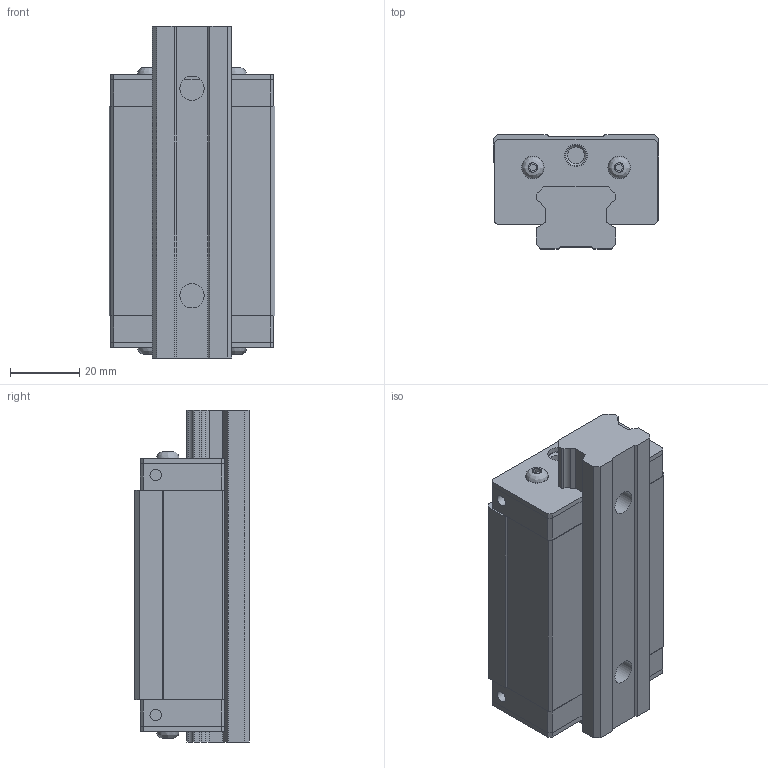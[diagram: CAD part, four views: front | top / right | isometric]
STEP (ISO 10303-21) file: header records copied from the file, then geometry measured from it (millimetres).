
FILE_DESCRIPTION( ( 'STEP AP214' ), '1' );
FILE_NAME( 'D:/濛機/紫賊/螃渦紫賊/BSQ LM BLOCK/賅筐葭/MCS/MCS25N.stp', '2019-09-02T11:13:04', ( ' ' ), ( ' ' ), 'XStep 1.0', 'VISICAD', ' ' );
FILE_SCHEMA( ( 'automotive_design' ) );
Length unit declared in the file: metre
Products named in the file (4): 1; 2; 3; 4
Bounding box: 48 x 33 x 96 mm (x, y, z)
Volume: 108907.9 mm3; surface area: 30854.1 mm2
Topology: 4 solids, 4 shells, 230 faces, 598 edges, 396 vertices
Faces by surface type: plane 174, cylinder 42, cone 10, bspline 4
Full cylindrical faces by diameter (mm): 3.3 x4, 4.917 x6, 6.5 x10, 7 x2, 11 x2
Entity records: 8718 total; most frequent: CARTESIAN_POINT 1282, DIRECTION 1104, ORIENTED_EDGE 1100, EDGE_CURVE 550, LINE 456, VECTOR 456, VERTEX_POINT 390, AXIS2_PLACEMENT_3D 324
